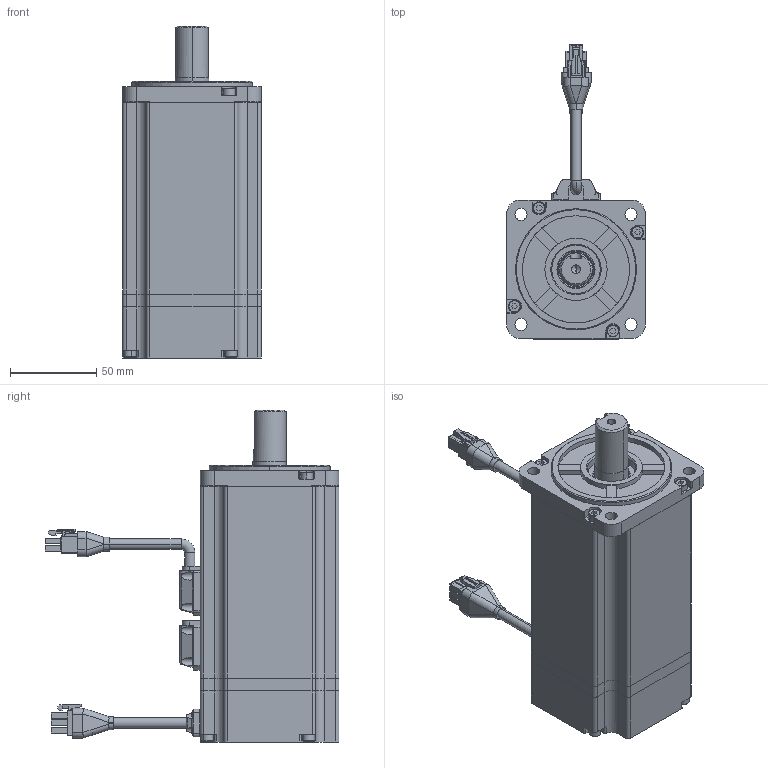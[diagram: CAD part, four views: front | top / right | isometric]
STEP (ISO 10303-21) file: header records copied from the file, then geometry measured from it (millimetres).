
FILE_DESCRIPTION (( 'STEP AP203' ), '1' );
FILE_NAME ('750W+brake.STEP', '2019-03-23T10:01:42', ( '1' ), ( 'MideaGroup IT' ), 'SwSTEP 2.0', 'SolidWorks 2012', '' );
FILE_SCHEMA (( 'CONFIG_CONTROL_DESIGN' ));
Products named in the file (20): 750W+brake; 毀嚏盄揤裔郪璃; 毀嚏盄傷赽揤裔; 晤鎢ん盄傷赽; 晤鎢ん盄揤裔躇猾; 晤鎢ん盄揤裔; 雄薯盄揤裔郪璃; 雄薯盄傷赽裔; M2.5X5_GB_CROSS_SCREWS_TYPE3 M2.5X8-8-N; 雄薯盄; 雄薯盄傷赽; 雄薯盄躇猾菜; 雄薯盄揤裔; 萇儂粣-001; 6004_Rolling bearings 6004 GB 276-94; M4x20; 綴裔-001; ヶ傷裔-001; 綴傷裔-001; 儂褲-001
Assembly tree (39 placements, depth 3):
  750W+brake
    儂褲-001
    綴傷裔-001
    ヶ傷裔-001
    綴裔-001
    M4x20  x8
    6004_Rolling bearings 6004 GB 276-94
    萇儂粣-001
    雄薯盄揤裔郪璃
      雄薯盄揤裔
      雄薯盄躇猾菜
      雄薯盄傷赽
      雄薯盄
      M2.5X5_GB_CROSS_SCREWS_TYPE3 M2.5X8-8-N  x4
      雄薯盄傷赽裔
    毀嚏盄揤裔郪璃
      晤鎢ん盄揤裔
      晤鎢ん盄揤裔躇猾
      晤鎢ん盄傷赽
      M2.5X5_GB_CROSS_SCREWS_TYPE3 M2.5X8-8-N  x4
      毀嚏盄傷赽揤裔
    雄薯盄躇猾菜
    雄薯盄揤裔
    M2.5X5_GB_CROSS_SCREWS_TYPE3 M2.5X8-8-N  x4
Bounding box: 80.2 x 170 x 192 mm (x, y, z)
Volume: 335240.2 mm3; surface area: 173431.4 mm2
Topology: 39 solids, 65 shells, 1781 faces, 5027 edges, 3348 vertices
Faces by surface type: plane 854, cylinder 685, cone 97, torus 75, sphere 56, bspline 14
Entity records: 46604 total; most frequent: CARTESIAN_POINT 11333, DIRECTION 6836, ORIENTED_EDGE 6697, EDGE_CURVE 3529, AXIS2_PLACEMENT_3D 2461, VERTEX_POINT 2360, LINE 1914, VECTOR 1914
